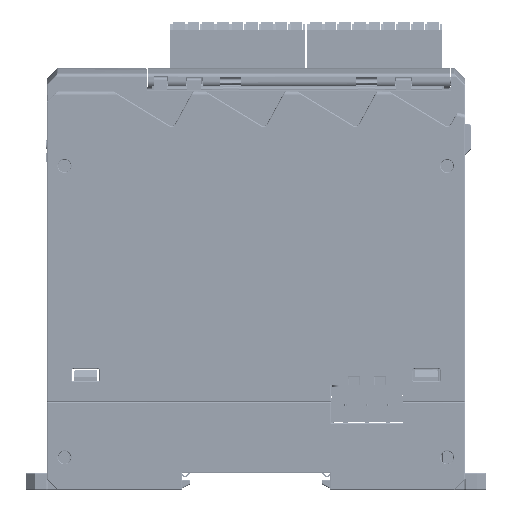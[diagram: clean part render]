
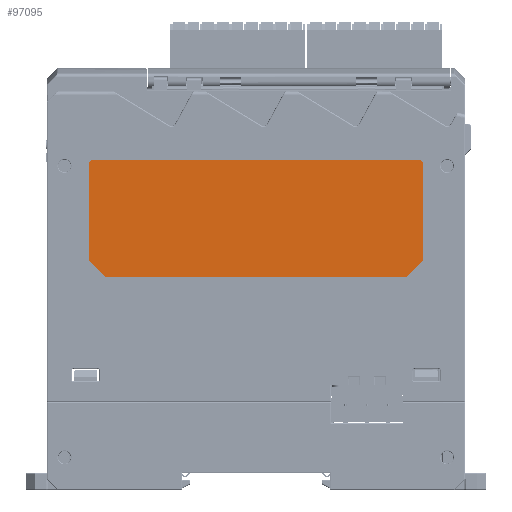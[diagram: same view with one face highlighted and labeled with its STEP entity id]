
A CAD part, left-side view. The second image highlights one B-rep face of the part: STEP entity #97095.
In plain terms, the highlighted planar face has unit normal (-1, 0, 0).
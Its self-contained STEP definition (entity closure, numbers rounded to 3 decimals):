
#33415=CARTESIAN_POINT('',(-54.2,85.793,3.26));
#33416=DIRECTION('',(1.,0.,0.));
#33417=DIRECTION('',(0.,0.,-1.));
#33418=AXIS2_PLACEMENT_3D('',#33415,#33416,#33417);
#33420=DIRECTION('',(0.,0.707,0.707));
#33421=VECTOR('',#33420,5.243);
#33422=CARTESIAN_POINT('',(-54.2,86.146,2.906));
#33423=LINE('',#33422,#33421);
#33424=CARTESIAN_POINT('',(-54.2,89.5,6.967));
#33425=DIRECTION('',(1.,0.,0.));
#33426=DIRECTION('',(0.,0.707,-0.707));
#33427=AXIS2_PLACEMENT_3D('',#33424,#33425,#33426);
#33429=DIRECTION('',(0.,0.,1.));
#33430=VECTOR('',#33429,22.793);
#33431=CARTESIAN_POINT('',(-54.2,90.,6.967));
#33432=LINE('',#33431,#33430);
#33433=CARTESIAN_POINT('',(-54.2,89.,29.76));
#33434=DIRECTION('',(1.,0.,0.));
#33435=DIRECTION('',(0.,1.,0.));
#33436=AXIS2_PLACEMENT_3D('',#33433,#33434,#33435);
#33438=DIRECTION('',(0.,-1.,0.));
#33439=VECTOR('',#33438,78.);
#33440=CARTESIAN_POINT('',(-54.2,89.,30.76));
#33441=LINE('',#33440,#33439);
#33442=CARTESIAN_POINT('',(-54.2,11.,29.76));
#33443=DIRECTION('',(1.,0.,0.));
#33444=DIRECTION('',(0.,0.,1.));
#33445=AXIS2_PLACEMENT_3D('',#33442,#33443,#33444);
#33447=DIRECTION('',(0.,0.,-1.));
#33448=VECTOR('',#33447,22.793);
#33449=CARTESIAN_POINT('',(-54.2,10.,29.76));
#33450=LINE('',#33449,#33448);
#33451=CARTESIAN_POINT('',(-54.2,10.5,6.967));
#33452=DIRECTION('',(1.,0.,0.));
#33453=DIRECTION('',(0.,-1.,0.));
#33454=AXIS2_PLACEMENT_3D('',#33451,#33452,#33453);
#33456=DIRECTION('',(0.,0.707,-0.707));
#33457=VECTOR('',#33456,5.243);
#33458=CARTESIAN_POINT('',(-54.2,10.146,6.614));
#33459=LINE('',#33458,#33457);
#33460=CARTESIAN_POINT('',(-54.2,14.207,3.26));
#33461=DIRECTION('',(1.,0.,0.));
#33462=DIRECTION('',(0.,-0.707,-0.707));
#33463=AXIS2_PLACEMENT_3D('',#33460,#33461,#33462);
#33465=DIRECTION('',(0.,1.,0.));
#33466=VECTOR('',#33465,71.586);
#33467=CARTESIAN_POINT('',(-54.2,14.207,2.76));
#33468=LINE('',#33467,#33466);
#45964=CARTESIAN_POINT('',(-54.2,85.793,2.76));
#45965=VERTEX_POINT('',#45964);
#45966=CARTESIAN_POINT('',(-54.2,14.207,2.76));
#45967=VERTEX_POINT('',#45966);
#45968=CARTESIAN_POINT('',(-54.2,86.146,2.906));
#45969=VERTEX_POINT('',#45968);
#45970=CARTESIAN_POINT('',(-54.2,89.854,6.614));
#45971=VERTEX_POINT('',#45970);
#45972=CARTESIAN_POINT('',(-54.2,90.,6.967));
#45973=VERTEX_POINT('',#45972);
#45974=CARTESIAN_POINT('',(-54.2,90.,29.76));
#45975=VERTEX_POINT('',#45974);
#45976=CARTESIAN_POINT('',(-54.2,89.,30.76));
#45977=VERTEX_POINT('',#45976);
#45978=CARTESIAN_POINT('',(-54.2,11.,30.76));
#45979=VERTEX_POINT('',#45978);
#45980=CARTESIAN_POINT('',(-54.2,10.,29.76));
#45981=VERTEX_POINT('',#45980);
#45982=CARTESIAN_POINT('',(-54.2,10.,6.967));
#45983=VERTEX_POINT('',#45982);
#45984=CARTESIAN_POINT('',(-54.2,10.146,6.614));
#45985=VERTEX_POINT('',#45984);
#45986=CARTESIAN_POINT('',(-54.2,13.854,2.906));
#45987=VERTEX_POINT('',#45986);
#97066=CARTESIAN_POINT('',(-54.2,0.,-85.));
#97067=DIRECTION('',(-1.,0.,0.));
#97068=DIRECTION('',(0.,0.,1.));
#97069=AXIS2_PLACEMENT_3D('',#97066,#97067,#97068);
#97070=PLANE('',#97069);
#97071=ORIENTED_EDGE('',*,*,#97057,.T.);
#97073=ORIENTED_EDGE('',*,*,#97072,.T.);
#97075=ORIENTED_EDGE('',*,*,#97074,.T.);
#97077=ORIENTED_EDGE('',*,*,#97076,.T.);
#97079=ORIENTED_EDGE('',*,*,#97078,.T.);
#97081=ORIENTED_EDGE('',*,*,#97080,.T.);
#97083=ORIENTED_EDGE('',*,*,#97082,.T.);
#97085=ORIENTED_EDGE('',*,*,#97084,.T.);
#97087=ORIENTED_EDGE('',*,*,#97086,.T.);
#97089=ORIENTED_EDGE('',*,*,#97088,.T.);
#97091=ORIENTED_EDGE('',*,*,#97090,.T.);
#97092=ORIENTED_EDGE('',*,*,#97044,.T.);
#97093=EDGE_LOOP('',(#97071,#97073,#97075,#97077,#97079,#97081,#97083,#97085,
#97087,#97089,#97091,#97092));
#97094=FACE_OUTER_BOUND('',#97093,.F.);
#33419=CIRCLE('',#33418,0.5);
#33428=CIRCLE('',#33427,0.5);
#33437=CIRCLE('',#33436,1.);
#33446=CIRCLE('',#33445,1.);
#33455=CIRCLE('',#33454,0.5);
#33464=CIRCLE('',#33463,0.5);
#97044=EDGE_CURVE('',#45967,#45965,#33468,.T.);
#97057=EDGE_CURVE('',#45965,#45969,#33419,.T.);
#97072=EDGE_CURVE('',#45969,#45971,#33423,.T.);
#97074=EDGE_CURVE('',#45971,#45973,#33428,.T.);
#97076=EDGE_CURVE('',#45973,#45975,#33432,.T.);
#97078=EDGE_CURVE('',#45975,#45977,#33437,.T.);
#97080=EDGE_CURVE('',#45977,#45979,#33441,.T.);
#97082=EDGE_CURVE('',#45979,#45981,#33446,.T.);
#97084=EDGE_CURVE('',#45981,#45983,#33450,.T.);
#97086=EDGE_CURVE('',#45983,#45985,#33455,.T.);
#97088=EDGE_CURVE('',#45985,#45987,#33459,.T.);
#97090=EDGE_CURVE('',#45987,#45967,#33464,.T.);
#97095=ADVANCED_FACE('',(#97094),#97070,.T.);
